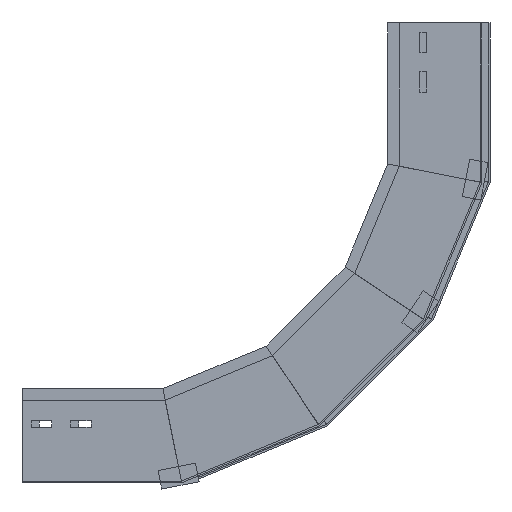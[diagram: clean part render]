
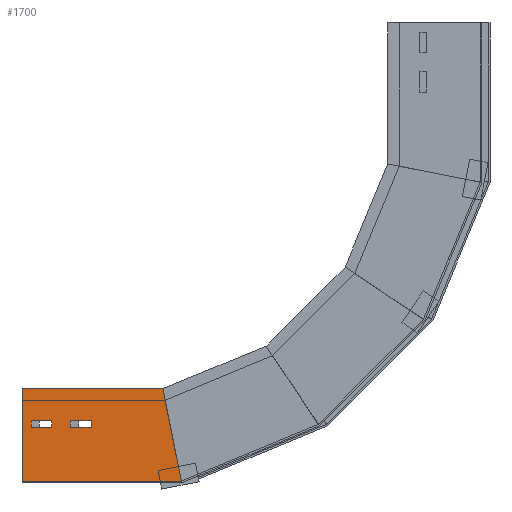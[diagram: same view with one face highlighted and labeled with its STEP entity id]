
A CAD part, left-side view. The second image highlights one B-rep face of the part: STEP entity #1700.
In plain terms, the highlighted planar face has unit normal (-1, 0, 0) as drawn and (1, 0, 0) by its records, which use the part's own axes.
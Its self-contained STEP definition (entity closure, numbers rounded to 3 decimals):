
#49 = CARTESIAN_POINT ( 'NONE',  ( 0., 66., -9.835 ) ) ;
#64 = EDGE_LOOP ( 'NONE', ( #965, #275, #1736, #133 ) ) ;
#82 = CARTESIAN_POINT ( 'NONE',  ( 0., 66., -51.505 ) ) ;
#84 = VERTEX_POINT ( 'NONE', #1435 ) ;
#90 = LINE ( 'NONE', #1699, #840 ) ;
#95 = ORIENTED_EDGE ( 'NONE', *, *, #1552, .T. ) ;
#133 = ORIENTED_EDGE ( 'NONE', *, *, #1345, .F. ) ;
#153 = EDGE_CURVE ( 'NONE', #1877, #380, #441, .T. ) ;
#159 = AXIS2_PLACEMENT_3D ( 'NONE', #1109, #374, #1556 ) ;
#202 = CARTESIAN_POINT ( 'NONE',  ( 0., 66., -51.505 ) ) ;
#232 = DIRECTION ( 'NONE',  ( 0., 0., -1. ) ) ;
#238 = VECTOR ( 'NONE', #524, 1000. ) ;
#248 = VERTEX_POINT ( 'NONE', #1245 ) ;
#267 = ORIENTED_EDGE ( 'NONE', *, *, #568, .T. ) ;
#271 = VERTEX_POINT ( 'NONE', #1532 ) ;
#275 = ORIENTED_EDGE ( 'NONE', *, *, #153, .F. ) ;
#287 = EDGE_LOOP ( 'NONE', ( #867, #1018, #326, #1782 ) ) ;
#302 = LINE ( 'NONE', #1353, #497 ) ;
#319 = DIRECTION ( 'NONE',  ( 0., 0., 1. ) ) ;
#326 = ORIENTED_EDGE ( 'NONE', *, *, #462, .T. ) ;
#333 = VECTOR ( 'NONE', #1013, 1000. ) ;
#373 = CARTESIAN_POINT ( 'NONE',  ( 0., 32.452, -163.145 ) ) ;
#374 = DIRECTION ( 'NONE',  ( -1., 0., 0. ) ) ;
#380 = VERTEX_POINT ( 'NONE', #1849 ) ;
#394 = LINE ( 'NONE', #405, #333 ) ;
#405 = CARTESIAN_POINT ( 'NONE',  ( 0., 66., -9.835 ) ) ;
#410 = VERTEX_POINT ( 'NONE', #834 ) ;
#441 = LINE ( 'NONE', #1748, #1595 ) ;
#462 = EDGE_CURVE ( 'NONE', #271, #248, #90, .T. ) ;
#468 = VERTEX_POINT ( 'NONE', #945 ) ;
#495 = VERTEX_POINT ( 'NONE', #1016 ) ;
#497 = VECTOR ( 'NONE', #319, 1000. ) ;
#510 = DIRECTION ( 'NONE',  ( 0., 1., 0. ) ) ;
#522 = EDGE_CURVE ( 'NONE', #895, #898, #700, .T. ) ;
#524 = DIRECTION ( 'NONE',  ( 0., 0., -1. ) ) ;
#544 = CARTESIAN_POINT ( 'NONE',  ( 0., 66., -51.505 ) ) ;
#568 = EDGE_CURVE ( 'NONE', #84, #780, #302, .T. ) ;
#634 = FACE_BOUND ( 'NONE', #1845, .T. ) ;
#640 = LINE ( 'NONE', #373, #699 ) ;
#641 = VECTOR ( 'NONE', #510, 1000. ) ;
#677 = VECTOR ( 'NONE', #232, 1000. ) ;
#682 = LINE ( 'NONE', #202, #641 ) ;
#686 = LINE ( 'NONE', #1074, #932 ) ;
#699 = VECTOR ( 'NONE', #1084, 1000. ) ;
#700 = LINE ( 'NONE', #544, #1726 ) ;
#751 = LINE ( 'NONE', #1797, #792 ) ;
#780 = VERTEX_POINT ( 'NONE', #894 ) ;
#783 = VECTOR ( 'NONE', #809, 1000. ) ;
#792 = VECTOR ( 'NONE', #1206, 1000. ) ;
#809 = DIRECTION ( 'NONE',  ( 0., 1., 0. ) ) ;
#811 = CARTESIAN_POINT ( 'NONE',  ( 0., 66., -73.505 ) ) ;
#834 = CARTESIAN_POINT ( 'NONE',  ( 0., 100., -149.709 ) ) ;
#840 = VECTOR ( 'NONE', #1129, 1000. ) ;
#867 = ORIENTED_EDGE ( 'NONE', *, *, #1297, .T. ) ;
#882 = EDGE_CURVE ( 'NONE', #780, #895, #682, .T. ) ;
#883 = EDGE_CURVE ( 'NONE', #1877, #495, #1401, .T. ) ;
#894 = CARTESIAN_POINT ( 'NONE',  ( 0., 59., -51.505 ) ) ;
#895 = VERTEX_POINT ( 'NONE', #82 ) ;
#898 = VERTEX_POINT ( 'NONE', #811 ) ;
#932 = VECTOR ( 'NONE', #1661, 1000. ) ;
#945 = CARTESIAN_POINT ( 'NONE',  ( 0., 59., -9.835 ) ) ;
#965 = ORIENTED_EDGE ( 'NONE', *, *, #1746, .F. ) ;
#1013 = DIRECTION ( 'NONE',  ( 0., 0., -1. ) ) ;
#1016 = CARTESIAN_POINT ( 'NONE',  ( 0., 0., -169.6 ) ) ;
#1018 = ORIENTED_EDGE ( 'NONE', *, *, #1022, .T. ) ;
#1022 = EDGE_CURVE ( 'NONE', #1271, #271, #394, .T. ) ;
#1074 = CARTESIAN_POINT ( 'NONE',  ( 0., 66., -73.505 ) ) ;
#1084 = DIRECTION ( 'NONE',  ( 0., -0.981, -0.195 ) ) ;
#1109 = CARTESIAN_POINT ( 'NONE',  ( 0., 0., 0. ) ) ;
#1118 = DIRECTION ( 'NONE',  ( 0., 0., -1. ) ) ;
#1129 = DIRECTION ( 'NONE',  ( 0., -1., 0. ) ) ;
#1189 = ORIENTED_EDGE ( 'NONE', *, *, #522, .T. ) ;
#1206 = DIRECTION ( 'NONE',  ( 0., 0., 1. ) ) ;
#1233 = LINE ( 'NONE', #49, #783 ) ;
#1245 = CARTESIAN_POINT ( 'NONE',  ( 0., 59., -31.835 ) ) ;
#1271 = VERTEX_POINT ( 'NONE', #1647 ) ;
#1297 = EDGE_CURVE ( 'NONE', #468, #1271, #1233, .T. ) ;
#1345 = EDGE_CURVE ( 'NONE', #410, #495, #640, .T. ) ;
#1353 = CARTESIAN_POINT ( 'NONE',  ( 0., 59., -51.505 ) ) ;
#1366 = CARTESIAN_POINT ( 'NONE',  ( 0., 100., 0. ) ) ;
#1401 = LINE ( 'NONE', #1829, #238 ) ;
#1427 = CARTESIAN_POINT ( 'NONE',  ( 0., 0., 0. ) ) ;
#1435 = CARTESIAN_POINT ( 'NONE',  ( 0., 59., -73.505 ) ) ;
#1529 = LINE ( 'NONE', #1366, #677 ) ;
#1532 = CARTESIAN_POINT ( 'NONE',  ( 0., 66., -31.835 ) ) ;
#1552 = EDGE_CURVE ( 'NONE', #898, #84, #686, .T. ) ;
#1556 = DIRECTION ( 'NONE',  ( 0., 0., 1. ) ) ;
#1595 = VECTOR ( 'NONE', #1884, 1000. ) ;
#1634 = EDGE_CURVE ( 'NONE', #248, #468, #751, .T. ) ;
#1647 = CARTESIAN_POINT ( 'NONE',  ( 0., 66., -9.835 ) ) ;
#1661 = DIRECTION ( 'NONE',  ( 0., -1., 0. ) ) ;
#1680 = PLANE ( 'NONE',  #159 ) ;
#1699 = CARTESIAN_POINT ( 'NONE',  ( 0., 66., -31.835 ) ) ;
#1700 = ADVANCED_FACE ( 'NONE', ( #634, #1701, #1839 ), #1680, .F. ) ;
#1701 = FACE_OUTER_BOUND ( 'NONE', #64, .T. ) ;
#1726 = VECTOR ( 'NONE', #1118, 1000. ) ;
#1736 = ORIENTED_EDGE ( 'NONE', *, *, #883, .T. ) ;
#1746 = EDGE_CURVE ( 'NONE', #380, #410, #1529, .T. ) ;
#1748 = CARTESIAN_POINT ( 'NONE',  ( 0., 0., 0. ) ) ;
#1766 = ORIENTED_EDGE ( 'NONE', *, *, #882, .T. ) ;
#1782 = ORIENTED_EDGE ( 'NONE', *, *, #1634, .T. ) ;
#1797 = CARTESIAN_POINT ( 'NONE',  ( 0., 59., -9.835 ) ) ;
#1829 = CARTESIAN_POINT ( 'NONE',  ( 0., 0., 0. ) ) ;
#1839 = FACE_BOUND ( 'NONE', #287, .T. ) ;
#1845 = EDGE_LOOP ( 'NONE', ( #1766, #1189, #95, #267 ) ) ;
#1849 = CARTESIAN_POINT ( 'NONE',  ( 0., 100., 0. ) ) ;
#1877 = VERTEX_POINT ( 'NONE', #1427 ) ;
#1884 = DIRECTION ( 'NONE',  ( 0., 1., 0. ) ) ;
